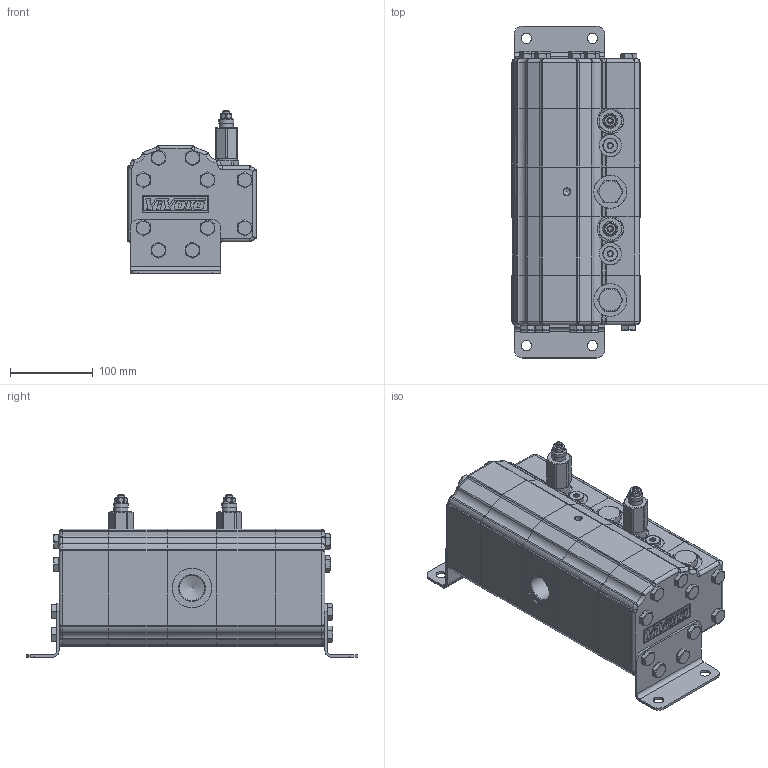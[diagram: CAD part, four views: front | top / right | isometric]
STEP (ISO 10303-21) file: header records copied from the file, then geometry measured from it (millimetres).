
FILE_DESCRIPTION(/* description */ ('Unknown'),/* implementation_level */ '2;1');
FILE_NAME(/* name */ '9V02-70',/* time_stamp */ '2020-04-18T11:38:43+02:00',/* author */ ('Unknown'),/* organization */ ('Unknown'),/* preprocessor_version */ 'ST-DEVELOPER v16.7',/* originating_system */ 'DEX',/* authorisation */ $);
FILE_SCHEMA (('AUTOMOTIVE_DESIGN {1 0 10303 214 3 1 1}'));
Length unit declared in the file: millimetre
Products named in the file (1): XV-3V
Bounding box: 155 x 402 x 197 mm (x, y, z)
Volume: 5997291 mm3; surface area: 269645.6 mm2
Topology: 1 solids, 1 shells, 1075 faces, 2655 edges, 1629 vertices
Faces by surface type: plane 509, cylinder 392, bspline 72, cone 68, torus 34
Full cylindrical faces by diameter (mm): 8 x2, 8.376 x2, 12.5 x4, 16 x20, 17 x2, 18 x4, 18.631 x4, 26.5 x4, 27 x2, 30.291 x4, 40 x4, 48 x1, 50 x1
Entity records: 46525 total; most frequent: CARTESIAN_POINT 14837, ORIENTED_EDGE 4968, DIRECTION 4872, EDGE_CURVE 2484, AXIS2_PLACEMENT_3D 1812, VERTEX_POINT 1599, FACE_BOUND 1271, EDGE_LOOP 1266
